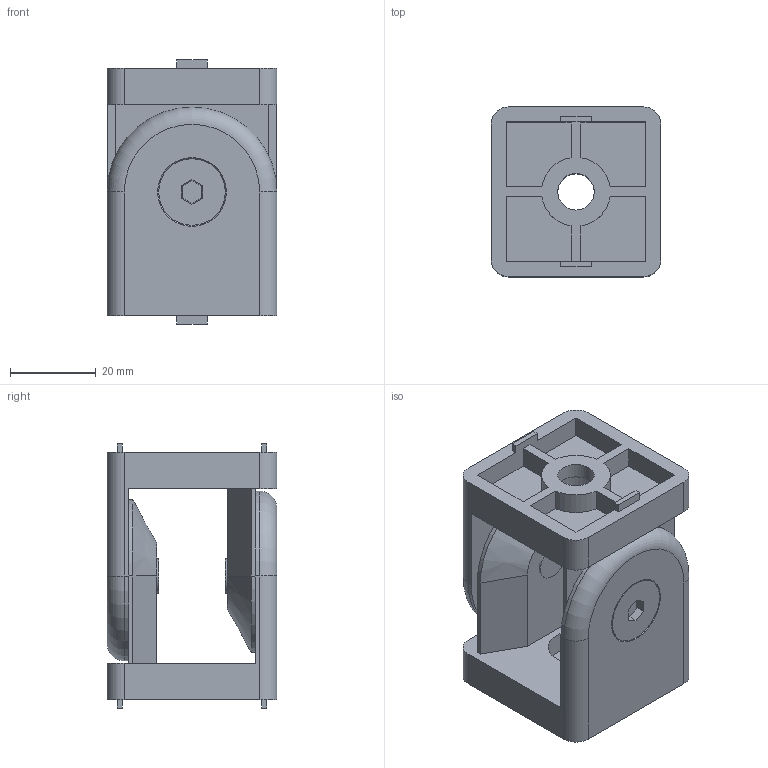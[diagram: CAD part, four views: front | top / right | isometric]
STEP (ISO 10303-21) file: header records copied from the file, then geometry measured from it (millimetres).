
FILE_DESCRIPTION(/* description */ (''),/* implementation_level */ '2;1');
FILE_NAME(/* name */ '\\NAS\db20\H-ETC4040\DR_H-ETC4040.stp',/* time_stamp */ '2017-08-22T11:27:55+09:00',/* author */ ('user'),/* organization */ (''),/* preprocessor_version */ 'ST-DEVELOPER v15.6',/* originating_system */ 'Autodesk Inventor 2015',/* authorisation */ '');
FILE_SCHEMA (('AUTOMOTIVE_DESIGN { 1 0 10303 214 3 1 1 }'));
Length unit declared in the file: millimetre
Products named in the file (3): DR_H-ETC4040; DR_H-ETC4040-SW
Bounding box: 39.5 x 39.5 x 61.5 mm (x, y, z)
Volume: 41582.5 mm3; surface area: 23825.9 mm2
Topology: 4 solids, 4 shells, 140 faces, 354 edges, 232 vertices
Faces by surface type: plane 98, cylinder 32, cone 8, torus 2
Full cylindrical faces by diameter (mm): 6.647 x2, 8 x2, 8.5 x4, 13 x2, 15.5 x2
Entity records: 2133 total; most frequent: CARTESIAN_POINT 357, DIRECTION 356, ORIENTED_EDGE 332, EDGE_CURVE 166, LINE 130, VECTOR 130, VERTEX_POINT 114, AXIS2_PLACEMENT_3D 113
